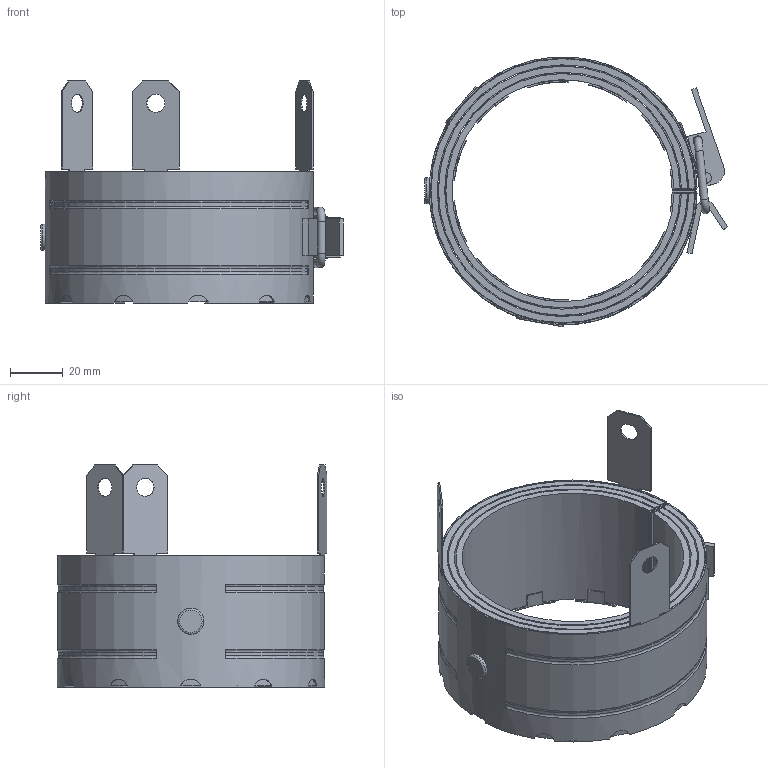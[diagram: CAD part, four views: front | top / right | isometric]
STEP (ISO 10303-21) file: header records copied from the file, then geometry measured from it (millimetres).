
FILE_DESCRIPTION(/* description */ (''),/* implementation_level */ '2;1');
FILE_NAME(/* name */ 'H:\Geberit-Teile\Export\RS90 plus\stp\348331.stp',/* time_stamp */ '2017-03-24T12:29:52+01:00',/* author */ ('seihe2'),/* organization */ (''),/* preprocessor_version */ 'ST-DEVELOPER v15.2',/* originating_system */ 'Autodesk Inventor 2014',/* authorisation */ '');
FILE_SCHEMA (('AUTOMOTIVE_DESIGN { 1 0 10303 214 3 1 1 }'));
Length unit declared in the file: millimetre
Products named in the file (1): 348331
Bounding box: 115.27 x 102.68 x 84.5 mm (x, y, z)
Volume: 112834.2 mm3; surface area: 133265.7 mm2
Topology: 3 solids, 3 shells, 293 faces, 894 edges, 545 vertices
Faces by surface type: plane 213, cylinder 67, torus 13
Full cylindrical faces by diameter (mm): 3 x3, 3.5 x2, 4 x3, 7 x3, 10 x1
Entity records: 10738 total; most frequent: CARTESIAN_POINT 2264, ORIENTED_EDGE 1752, DIRECTION 1730, EDGE_CURVE 872, AXIS2_PLACEMENT_3D 618, VERTEX_POINT 540, LINE 494, VECTOR 494
